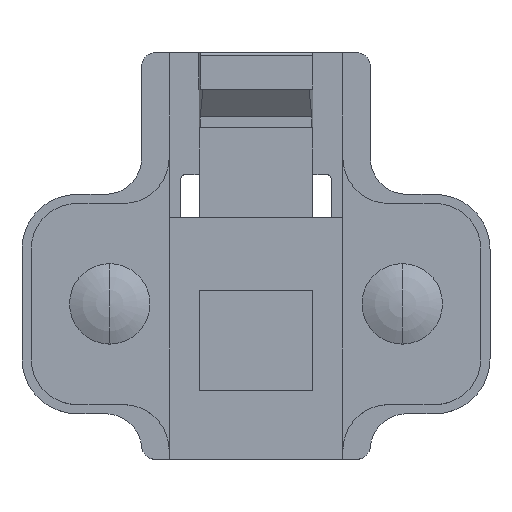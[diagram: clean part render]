
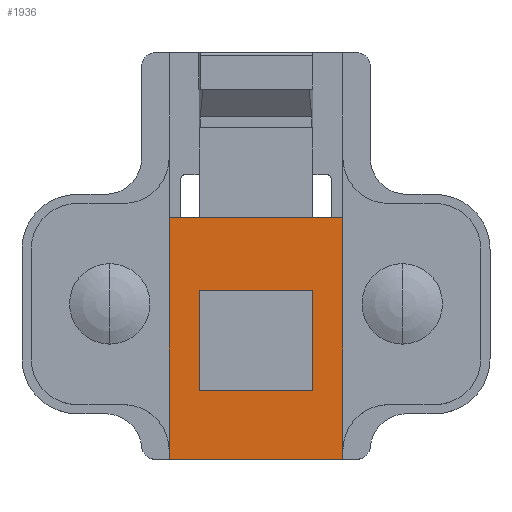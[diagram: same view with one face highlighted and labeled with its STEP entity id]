
A CAD part, top view. The second image highlights one B-rep face of the part: STEP entity #1936.
In plain terms, the highlighted planar face has unit normal (0, 0, 1).
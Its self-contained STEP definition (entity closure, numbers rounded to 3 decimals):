
#108 = CARTESIAN_POINT ( 'NONE',  ( 6.2, 1.5, 7. ) ) ;
#109 = ORIENTED_EDGE ( 'NONE', *, *, #2520, .F. ) ;
#122 = VECTOR ( 'NONE', #2235, 1000. ) ;
#377 = LINE ( 'NONE', #2331, #2723 ) ;
#433 = DIRECTION ( 'NONE',  ( 1., 0., 0. ) ) ;
#455 = VECTOR ( 'NONE', #3034, 1000. ) ;
#495 = LINE ( 'NONE', #2192, #2989 ) ;
#518 = EDGE_CURVE ( 'NONE', #2937, #735, #2809, .T. ) ;
#608 = FACE_OUTER_BOUND ( 'NONE', #1191, .T. ) ;
#641 = EDGE_CURVE ( 'NONE', #2754, #2239, #2959, .T. ) ;
#685 = CARTESIAN_POINT ( 'NONE',  ( -9.5, 29.698, 7. ) ) ;
#735 = VERTEX_POINT ( 'NONE', #108 ) ;
#752 = VECTOR ( 'NONE', #1053, 1000. ) ;
#772 = CARTESIAN_POINT ( 'NONE',  ( -9.5, -17., 7. ) ) ;
#783 = LINE ( 'NONE', #1524, #122 ) ;
#792 = AXIS2_PLACEMENT_3D ( 'NONE', #1372, #2528, #2698 ) ;
#799 = DIRECTION ( 'NONE',  ( 1., 0., 0. ) ) ;
#802 = EDGE_CURVE ( 'NONE', #2600, #2239, #2216, .T. ) ;
#818 = ORIENTED_EDGE ( 'NONE', *, *, #2631, .F. ) ;
#876 = VECTOR ( 'NONE', #799, 1000. ) ;
#915 = CARTESIAN_POINT ( 'NONE',  ( 9.5, 9.45, 7. ) ) ;
#1053 = DIRECTION ( 'NONE',  ( 0., -1., 0. ) ) ;
#1155 = CARTESIAN_POINT ( 'NONE',  ( 5.2, -9.5, 7. ) ) ;
#1191 = EDGE_LOOP ( 'NONE', ( #3013, #1201, #2518, #109 ) ) ;
#1198 = ORIENTED_EDGE ( 'NONE', *, *, #1736, .F. ) ;
#1201 = ORIENTED_EDGE ( 'NONE', *, *, #802, .T. ) ;
#1279 = PLANE ( 'NONE',  #792 ) ;
#1341 = VERTEX_POINT ( 'NONE', #2790 ) ;
#1372 = CARTESIAN_POINT ( 'NONE',  ( -9.5, 27.5, 7. ) ) ;
#1524 = CARTESIAN_POINT ( 'NONE',  ( 6.2, 5., 7. ) ) ;
#1697 = LINE ( 'NONE', #685, #2872 ) ;
#1736 = EDGE_CURVE ( 'NONE', #2937, #2186, #495, .T. ) ;
#1887 = CARTESIAN_POINT ( 'NONE',  ( 9.5, -17., 7. ) ) ;
#1936 = ADVANCED_FACE ( 'NONE', ( #608, #2468 ), #1279, .F. ) ;
#1985 = EDGE_CURVE ( 'NONE', #3083, #2600, #1697, .T. ) ;
#2044 = CARTESIAN_POINT ( 'NONE',  ( -9.5, 9.45, 7. ) ) ;
#2077 = EDGE_LOOP ( 'NONE', ( #2387, #1198, #2346, #818 ) ) ;
#2183 = VECTOR ( 'NONE', #2624, 1000. ) ;
#2186 = VERTEX_POINT ( 'NONE', #2479 ) ;
#2192 = CARTESIAN_POINT ( 'NONE',  ( -6.2, 5., 7. ) ) ;
#2216 = LINE ( 'NONE', #772, #876 ) ;
#2235 = DIRECTION ( 'NONE',  ( 0., 1., 0. ) ) ;
#2239 = VERTEX_POINT ( 'NONE', #1887 ) ;
#2331 = CARTESIAN_POINT ( 'NONE',  ( -9.5, 9.45, 7. ) ) ;
#2346 = ORIENTED_EDGE ( 'NONE', *, *, #518, .T. ) ;
#2387 = ORIENTED_EDGE ( 'NONE', *, *, #2746, .T. ) ;
#2389 = CARTESIAN_POINT ( 'NONE',  ( 6.2, 1.5, 7. ) ) ;
#2457 = CARTESIAN_POINT ( 'NONE',  ( -6.2, 1.5, 7. ) ) ;
#2468 = FACE_BOUND ( 'NONE', #2077, .T. ) ;
#2475 = CARTESIAN_POINT ( 'NONE',  ( 9.5, 29.698, 7. ) ) ;
#2479 = CARTESIAN_POINT ( 'NONE',  ( -6.2, -9.5, 7. ) ) ;
#2500 = CARTESIAN_POINT ( 'NONE',  ( -9.5, -17., 7. ) ) ;
#2518 = ORIENTED_EDGE ( 'NONE', *, *, #641, .F. ) ;
#2520 = EDGE_CURVE ( 'NONE', #3083, #2754, #377, .T. ) ;
#2528 = DIRECTION ( 'NONE',  ( 0., 0., -1. ) ) ;
#2600 = VERTEX_POINT ( 'NONE', #2500 ) ;
#2624 = DIRECTION ( 'NONE',  ( 1., 0., 0. ) ) ;
#2627 = DIRECTION ( 'NONE',  ( 0., -1., 0. ) ) ;
#2631 = EDGE_CURVE ( 'NONE', #1341, #735, #783, .T. ) ;
#2698 = DIRECTION ( 'NONE',  ( 0., -1., 0. ) ) ;
#2723 = VECTOR ( 'NONE', #433, 1000. ) ;
#2746 = EDGE_CURVE ( 'NONE', #1341, #2186, #3090, .T. ) ;
#2754 = VERTEX_POINT ( 'NONE', #915 ) ;
#2790 = CARTESIAN_POINT ( 'NONE',  ( 6.2, -9.5, 7. ) ) ;
#2803 = DIRECTION ( 'NONE',  ( 0., -1., 0. ) ) ;
#2809 = LINE ( 'NONE', #2389, #2183 ) ;
#2872 = VECTOR ( 'NONE', #2803, 1000. ) ;
#2937 = VERTEX_POINT ( 'NONE', #2457 ) ;
#2959 = LINE ( 'NONE', #2475, #752 ) ;
#2989 = VECTOR ( 'NONE', #2627, 1000. ) ;
#3013 = ORIENTED_EDGE ( 'NONE', *, *, #1985, .T. ) ;
#3034 = DIRECTION ( 'NONE',  ( -1., 0., 0. ) ) ;
#3083 = VERTEX_POINT ( 'NONE', #2044 ) ;
#3090 = LINE ( 'NONE', #1155, #455 ) ;
